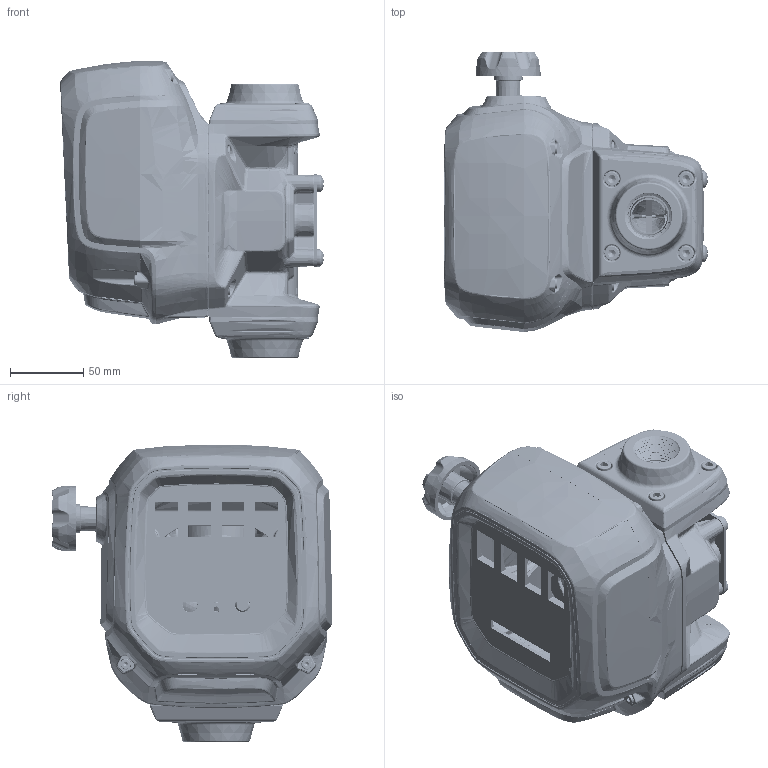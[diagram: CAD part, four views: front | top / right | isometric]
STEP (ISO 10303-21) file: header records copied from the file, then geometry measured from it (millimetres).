
FILE_DESCRIPTION(/* description */ (''),/* implementation_level */ '2;1');
FILE_NAME(/* name */ 'G:/MKTG/PUBLICATIONS/3D Models/QM/QM240-150.step',/* time_stamp */ '2020-04-22T11:31:40-05:00',/* author */ (''),/* organization */ (''),/* preprocessor_version */ 'ST-DEVELOPER v18',/* originating_system */ 'Autodesk Translation Framework v8.12.0.6',/* authorisation */ '');
FILE_SCHEMA (('AUTOMOTIVE_DESIGN { 1 0 10303 214 3 1 1 }'));
Products named in the file (29): 139121-06_gallon; 139121-04; 139120-36; 139120-02; 139110-38; 139110-23; 139110-26; 901004-35; 901004-36; 139120-26; 904009-04; 904002-107; 904009-01; 139120-06; 90400837; 139120-03; 904009-02; 139110-44; 905002-57; 139110-27; 139120-08; 904009-03; 139121-03; 139110-21; 904004-36; 900900-15; 901004-28; 139110-42; 139091-01
Assembly tree (55 placements, depth 4):
  139121-06_gallon
    139121-04
      139120-36
        139120-02
        139110-38
        139110-23
      139110-26
      901004-35
      901004-36
      139120-26
      904009-04  x4
      904002-107  x4
      904009-01  x4
      139120-06
      904009-03  x4
      90400837  x2
      139120-03
      904009-02  x4
      139110-44
      900900-15
      905002-57
    139110-27
    139120-08  x2
    904009-03  x8
    139121-03
      139110-21
      904004-36
    900900-15
    901004-28  x2
    139110-42
    139091-01
Bounding box: 180.65 x 191.65 x 227.26 mm (x, y, z)
Volume: 882842.3 mm3; surface area: 420743.3 mm2
Topology: 63 solids, 64 shells, 7501 faces, 20772 edges, 13358 vertices
Faces by surface type: bspline 3304, cylinder 1659, plane 1334, torus 538, cone 467, sphere 199
Full cylindrical faces by diameter (mm): 0.001 x2, 2.54 x1, 2.962 x34, 2.989 x20, 3.302 x4, 3.454 x2, 4 x10, 4.166 x24, 4.517 x48, 5.001 x96, 5.781 x1, 5.838 x1, 5.994 x46, 5.999 x4, 6 x12, 6.078 x76, 6.093 x48, 6.35 x12, 6.8 x40, 7 x4, 8 x4, 8.151 x44, 8.179 x2, 8.788 x4, 9 x2, 9.14 x2, 9.449 x1, 9.525 x1, 9.728 x1, 9.906 x4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
Entity records: 654312 total; most frequent: CARTESIAN_POINT 500989, ORIENTED_EDGE 36894, DIRECTION 23804, EDGE_CURVE 18447, VERTEX_POINT 11900, AXIS2_PLACEMENT_3D 9957, B_SPLINE_CURVE_WITH_KNOTS 8180, EDGE_LOOP 6921
